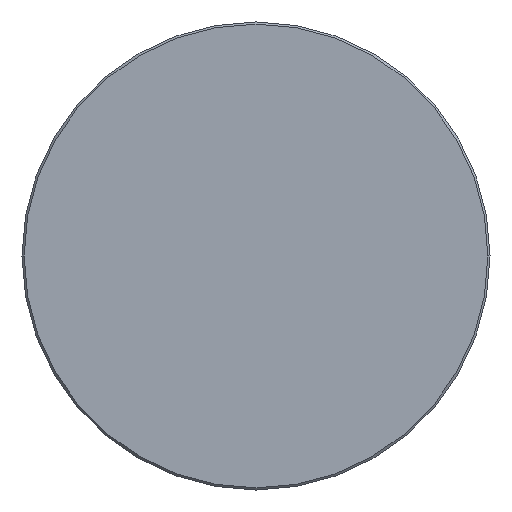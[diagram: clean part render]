
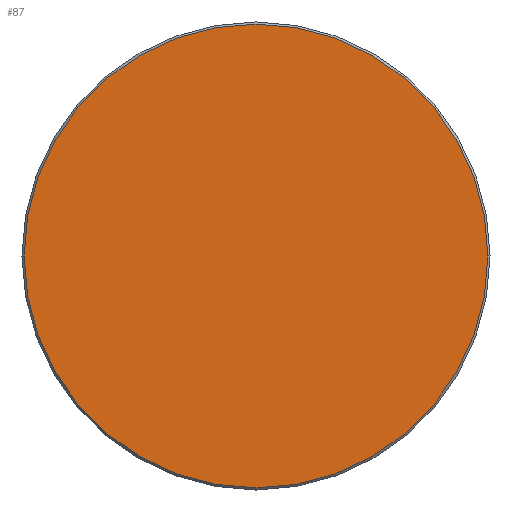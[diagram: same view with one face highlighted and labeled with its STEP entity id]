
A CAD part, left-side view. The second image highlights one B-rep face of the part: STEP entity #87.
In plain terms, the highlighted planar face has unit normal (-1, 0, 0).
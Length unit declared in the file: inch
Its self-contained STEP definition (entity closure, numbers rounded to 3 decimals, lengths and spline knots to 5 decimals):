
#4 = CARTESIAN_POINT ( 'NONE',  ( 0., -0.4335, 0. ) ) ;
#6 = CARTESIAN_POINT ( 'NONE',  ( 0., 0.4335, 0. ) ) ;
#8 = DIRECTION ( 'NONE',  ( -1., 0., 0. ) ) ;
#9 = VERTEX_POINT ( 'NONE', #6 ) ;
#32 = VERTEX_POINT ( 'NONE', #4 ) ;
#34 = AXIS2_PLACEMENT_3D ( 'NONE', #274, #335, #360 ) ;
#35 = FACE_OUTER_BOUND ( 'NONE', #186, .T. ) ;
#68 = CARTESIAN_POINT ( 'NONE',  ( 0., 0., 0. ) ) ;
#87 = ADVANCED_FACE ( 'NONE', ( #35 ), #367, .T. ) ;
#103 = CIRCLE ( 'NONE', #34, 0.4335 ) ;
#129 = EDGE_CURVE ( 'NONE', #9, #32, #103, .T. ) ;
#140 = ORIENTED_EDGE ( 'NONE', *, *, #264, .T. ) ;
#186 = EDGE_LOOP ( 'NONE', ( #343, #140 ) ) ;
#191 = DIRECTION ( 'NONE',  ( 0., -1., 0. ) ) ;
#241 = DIRECTION ( 'NONE',  ( 0., -1., 0. ) ) ;
#264 = EDGE_CURVE ( 'NONE', #32, #9, #291, .T. ) ;
#274 = CARTESIAN_POINT ( 'NONE',  ( 0., 0., 0. ) ) ;
#275 = DIRECTION ( 'NONE',  ( -1., 0., 0. ) ) ;
#291 = CIRCLE ( 'NONE', #346, 0.4335 ) ;
#335 = DIRECTION ( 'NONE',  ( -1., 0., 0. ) ) ;
#343 = ORIENTED_EDGE ( 'NONE', *, *, #129, .T. ) ;
#346 = AXIS2_PLACEMENT_3D ( 'NONE', #68, #275, #191 ) ;
#358 = CARTESIAN_POINT ( 'NONE',  ( 0., 0., 0. ) ) ;
#360 = DIRECTION ( 'NONE',  ( 0., -1., 0. ) ) ;
#367 = PLANE ( 'NONE',  #379 ) ;
#379 = AXIS2_PLACEMENT_3D ( 'NONE', #358, #8, #241 ) ;
